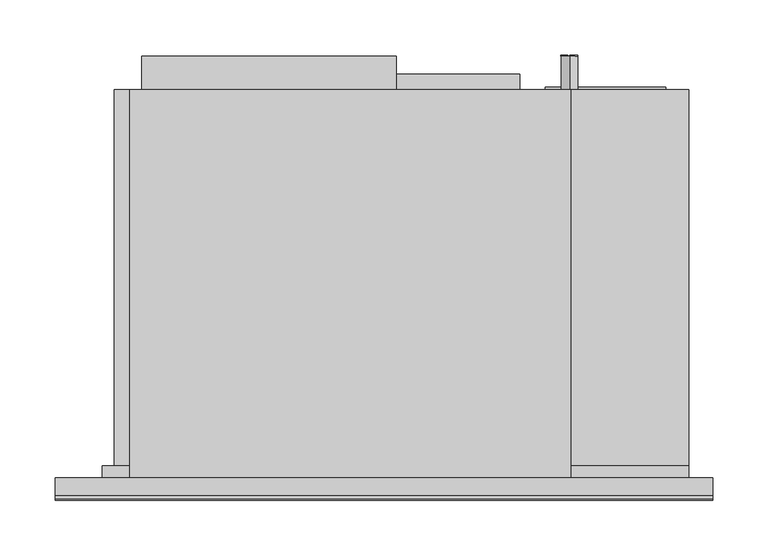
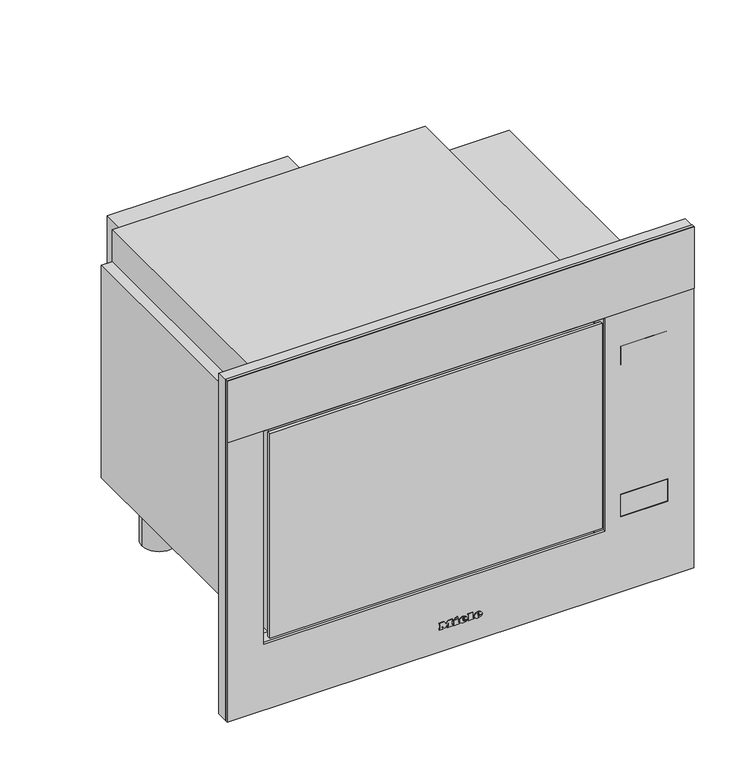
"""IFC4 building model written with IfcOpenShell, lengths in millimetres: proxy geometry, 11370020_AUS_M2240SC_EDST-CLST : 24224040_AUS_11370020_M2240SC_EDST-CLST."""

from ifc_helpers import new_model, si_unit, point, frame, frame_2d, origin, origin_with_axes, place, context, project, spatial, polyline, circle_curve, ellipse_curve, trimmed, segment, composite_curve, outline, extrude, faceted_brep, source, transform, mapped, element, save
from ifc_brep_helpers import plane_surface, cylinder_surface, revolved_surface, extruded_surface, advanced_brep


def specialty_equipment_020fe710(model_context):
    return source(origin(), model_context, "Body", "SolidModel", [
        advanced_brep(
        [(21.28, -20.0, 27.133), (21.28, -20.0, 28.042), (27.301, -20.0, 28.042), (16.825, -20.0, 28.042), (19.3, -20.0, 25.0), (27.148, -20.0, 27.133), (24.43, -20.0, 27.133), (22.288, -20.0, 26.125), (21.28, -20.0, 29.194), (21.28, -20.0, 30.175), (22.819, -20.0, 30.175), (22.819, -20.0, 29.194), (21.28, -19.0, 27.133), (22.288, -19.0, 26.125), (24.43, -19.0, 27.133), (27.148, -19.0, 27.133), (19.3, -19.0, 25.0), (16.825, -19.0, 28.042), (27.301, -19.0, 28.042), (21.28, -19.0, 28.042), (21.28, -19.0, 29.194), (22.819, -19.0, 29.194), (22.819, -19.0, 30.175), (21.28, -19.0, 30.175)],
        [
            (0, 1),
            (1, 2),
            (2, 3, ellipse_curve(frame((22.063, -20.0, 28.042), z_axis=(0.0, -1.0, 0.0), x_axis=(-1.0, 0.0, 0.0)), 5.238, 4.329)),
            (3, 4, circle_curve(frame((20.3080491, -20.0, 28.348), z_axis=(0.0, -1.0, 0.0), x_axis=(0.0, 0.0, -1.0)), 3.4964649)),
            (4, 5, circle_curve(frame((21.9581428, -20.0, 30.724), z_axis=(0.0, -1.0, 0.0), x_axis=(0.0, 0.0, -1.0)), 6.3110933)),
            (5, 6),
            (6, 7, circle_curve(frame((22.7279412, -20.0, 27.97), z_axis=(0.0, 1.0, 0.0), x_axis=(0.0, 0.0, -1.0)), 1.896727)),
            (7, 0, circle_curve(frame((22.288, -20.0, 27.133), z_axis=(0.0, 1.0, 0.0), x_axis=(0.0, 0.0, -1.0)), 1.008)),
            (8, 9),
            (9, 10, circle_curve(frame((22.0495, -20.0, 30.175), z_axis=(0.0, 1.0, 0.0), x_axis=(0.0, 0.0, -1.0)), 0.7695)),
            (10, 11),
            (11, 8),
            (12, 13, circle_curve(frame((22.288, -19.0, 27.133), z_axis=(0.0, -1.0, 0.0), x_axis=(0.0, 0.0, -1.0)), 1.008)),
            (13, 14, circle_curve(frame((22.7279412, -19.0, 27.97), z_axis=(0.0, -1.0, 0.0), x_axis=(0.0, 0.0, -1.0)), 1.896727)),
            (14, 15),
            (15, 16, circle_curve(frame((21.9581428, -19.0, 30.724), z_axis=(0.0, 1.0, 0.0), x_axis=(0.0, 0.0, -1.0)), 6.3110933)),
            (16, 17, circle_curve(frame((20.3080491, -19.0, 28.348), z_axis=(0.0, 1.0, 0.0), x_axis=(0.0, 0.0, -1.0)), 3.4964649)),
            (17, 18, ellipse_curve(frame((22.063, -19.0, 28.042), z_axis=(0.0, 1.0, 0.0), x_axis=(-1.0, 0.0, 0.0)), 5.238, 4.329)),
            (18, 19),
            (19, 12),
            (20, 21),
            (21, 22),
            (22, 23, circle_curve(frame((22.0495, -19.0, 30.175), z_axis=(0.0, -1.0, 0.0), x_axis=(0.0, 0.0, -1.0)), 0.7695)),
            (23, 20),
            (0, 12),
            (19, 1),
            (18, 2),
            (5, 15),
            (14, 6),
            (17, 3),
            (13, 7),
            (16, 4),
            (8, 20),
            (23, 9),
            (22, 10),
            (21, 11),
        ],
        [
            plane_surface(frame((21.28, -20.0, 28.042), z_axis=(0.0, -1.0, 0.0), x_axis=(0.0, 0.0, 1.0))),
            plane_surface(frame((21.28, -19.0, 28.042), z_axis=(0.0, 1.0, 0.0), x_axis=(0.0, 0.0, -1.0))),
            plane_surface(frame((21.28, -20.0, 27.133), z_axis=(1.0, 0.0, 0.0), x_axis=(0.0, 1.0, 0.0))),
            plane_surface(frame((21.28, -20.0, 28.042), z_axis=(0.0, 0.0, -1.0), x_axis=(0.0, 1.0, 0.0))),
            plane_surface(frame((27.148, -20.0, 27.133), z_axis=(0.0, 0.0, 1.0), x_axis=(0.0, 1.0, 0.0))),
            extruded_surface(trimmed(ellipse_curve(frame((22.063, -18.0, 28.042), z_axis=(0.0, -1.0, 0.0), x_axis=(-1.0, 0.0, 0.0)), 5.238, 4.329), [point((27.301, -18.0, 28.042))], [point((16.825, -18.0, 28.042))], True, "CARTESIAN"), (0.0, -1.0, 0.0), 1.0),
            revolved_surface(polyline([(22.7279412, -19.0, 26.073273), (22.7279412, -20.0, 26.073273)]), (22.7279412, -19.0, 27.97), (0.0, 1.0, 0.0)),
            revolved_surface(polyline([(22.288, -19.0, 26.125), (22.288, -20.0, 26.125)]), (22.288, -19.0, 27.133), (0.0, 1.0, 0.0)),
            cylinder_surface(frame((20.3080491, -19.0, 28.348), z_axis=(0.0, -1.0, 0.0), x_axis=(0.0, 0.0, -1.0)), 3.4964649),
            cylinder_surface(frame((21.9581428, -19.0, 30.724), z_axis=(0.0, -1.0, 0.0), x_axis=(0.0, 0.0, -1.0)), 6.3110933),
            plane_surface(frame((21.28, -20.0, 29.194), z_axis=(1.0, 0.0, 0.0), x_axis=(0.0, 1.0, 0.0))),
            revolved_surface(polyline([(22.0495, -19.0, 29.4055), (22.0495, -20.0, 29.4055)]), (22.0495, -19.0, 30.175), (0.0, 1.0, 0.0)),
            plane_surface(frame((22.819, -20.0, 30.175), z_axis=(-1.0, 0.0, 0.0), x_axis=(0.0, 1.0, 0.0))),
            plane_surface(frame((22.819, -20.0, 29.194), z_axis=(0.0, 0.0, 1.0), x_axis=(0.0, 1.0, 0.0))),
        ],
        [
            (0, [[1, 2, 3, 4, 5, 6, 7, 8], [9, 10, 11, 12]]),
            (1, [[13, 14, 15, 16, 17, 18, 19, 20], [21, 22, 23, 24]]),
            (2, [[-1, 25, -20, 26]]),
            (3, [[-2, -26, -19, 27]]),
            (4, [[-6, 28, -15, 29]]),
            (5, [[-3, -27, -18, 30]]),
            (6, [[-7, -29, -14, 31]]),
            (7, [[-8, -31, -13, -25]]),
            (8, [[-4, -30, -17, 32]]),
            (9, [[-5, -32, -16, -28]]),
            (10, [[-9, 33, -24, 34]]),
            (11, [[-10, -34, -23, 35]]),
            (12, [[-11, -35, -22, 36]]),
            (13, [[-12, -36, -21, -33]]),
        ],
    ),
        advanced_brep(
        [(2.497, -20.0, 27.133), (2.497, -20.0, 28.042), (8.518, -20.0, 28.042), (-1.958, -20.0, 28.042), (0.517, -20.0, 25.0), (8.365, -20.0, 27.133), (5.647, -20.0, 27.133), (3.505, -20.0, 26.125), (2.497, -20.0, 29.194), (2.497, -20.0, 30.175), (4.036, -20.0, 30.175), (4.036, -20.0, 29.194), (2.497, -19.0, 27.133), (3.505, -19.0, 26.125), (5.647, -19.0, 27.133), (8.365, -19.0, 27.133), (0.517, -19.0, 25.0), (-1.958, -19.0, 28.042), (8.518, -19.0, 28.042), (2.497, -19.0, 28.042), (2.497, -19.0, 29.194), (4.036, -19.0, 29.194), (4.036, -19.0, 30.175), (2.497, -19.0, 30.175)],
        [
            (0, 1),
            (1, 2),
            (2, 3, ellipse_curve(frame((3.28, -20.0, 28.042), z_axis=(0.0, -1.0, 0.0), x_axis=(-1.0, 0.0, 0.0)), 5.238, 4.329)),
            (3, 4, circle_curve(frame((1.5250491, -20.0, 28.348), z_axis=(0.0, -1.0, 0.0), x_axis=(0.0, 0.0, -1.0)), 3.4964649)),
            (4, 5, circle_curve(frame((3.1751428, -20.0, 30.724), z_axis=(0.0, -1.0, 0.0), x_axis=(0.0, 0.0, -1.0)), 6.3110933)),
            (5, 6),
            (6, 7, circle_curve(frame((3.9449412, -20.0, 27.97), z_axis=(0.0, 1.0, 0.0), x_axis=(0.0, 0.0, -1.0)), 1.896727)),
            (7, 0, circle_curve(frame((3.505, -20.0, 27.133), z_axis=(0.0, 1.0, 0.0), x_axis=(0.0, 0.0, -1.0)), 1.008)),
            (8, 9),
            (9, 10, circle_curve(frame((3.2665, -20.0, 30.175), z_axis=(0.0, 1.0, 0.0), x_axis=(0.0, 0.0, -1.0)), 0.7695)),
            (10, 11),
            (11, 8),
            (12, 13, circle_curve(frame((3.505, -19.0, 27.133), z_axis=(0.0, -1.0, 0.0), x_axis=(0.0, 0.0, -1.0)), 1.008)),
            (13, 14, circle_curve(frame((3.9449412, -19.0, 27.97), z_axis=(0.0, -1.0, 0.0), x_axis=(0.0, 0.0, -1.0)), 1.896727)),
            (14, 15),
            (15, 16, circle_curve(frame((3.1751428, -19.0, 30.724), z_axis=(0.0, 1.0, 0.0), x_axis=(0.0, 0.0, -1.0)), 6.3110933)),
            (16, 17, circle_curve(frame((1.5250491, -19.0, 28.348), z_axis=(0.0, 1.0, 0.0), x_axis=(0.0, 0.0, -1.0)), 3.4964649)),
            (17, 18, ellipse_curve(frame((3.28, -19.0, 28.042), z_axis=(0.0, 1.0, 0.0), x_axis=(-1.0, 0.0, 0.0)), 5.238, 4.329)),
            (18, 19),
            (19, 12),
            (20, 21),
            (21, 22),
            (22, 23, circle_curve(frame((3.2665, -19.0, 30.175), z_axis=(0.0, -1.0, 0.0), x_axis=(0.0, 0.0, -1.0)), 0.7695)),
            (23, 20),
            (0, 12),
            (19, 1),
            (18, 2),
            (5, 15),
            (14, 6),
            (17, 3),
            (13, 7),
            (16, 4),
            (8, 20),
            (23, 9),
            (22, 10),
            (21, 11),
        ],
        [
            plane_surface(frame((2.497, -20.0, 28.042), z_axis=(0.0, -1.0, 0.0), x_axis=(0.0, 0.0, 1.0))),
            plane_surface(frame((2.497, -19.0, 28.042), z_axis=(0.0, 1.0, 0.0), x_axis=(0.0, 0.0, -1.0))),
            plane_surface(frame((2.497, -20.0, 27.133), z_axis=(1.0, 0.0, 0.0), x_axis=(0.0, 1.0, 0.0))),
            plane_surface(frame((2.497, -20.0, 28.042), z_axis=(0.0, 0.0, -1.0), x_axis=(0.0, 1.0, 0.0))),
            plane_surface(frame((8.365, -20.0, 27.133), z_axis=(0.0, 0.0, 1.0), x_axis=(0.0, 1.0, 0.0))),
            extruded_surface(trimmed(ellipse_curve(frame((3.28, -18.0, 28.042), z_axis=(0.0, -1.0, 0.0), x_axis=(-1.0, 0.0, 0.0)), 5.238, 4.329), [point((8.518, -18.0, 28.042))], [point((-1.958, -18.0, 28.042))], True, "CARTESIAN"), (0.0, -1.0, 0.0), 1.0),
            revolved_surface(polyline([(3.9449412, -19.0, 26.073273), (3.9449412, -20.0, 26.073273)]), (3.9449412, -19.0, 27.97), (0.0, 1.0, 0.0)),
            revolved_surface(polyline([(3.505, -19.0, 26.125), (3.505, -20.0, 26.125)]), (3.505, -19.0, 27.133), (0.0, 1.0, 0.0)),
            cylinder_surface(frame((1.5250491, -19.0, 28.348), z_axis=(0.0, -1.0, 0.0), x_axis=(0.0, 0.0, -1.0)), 3.4964649),
            cylinder_surface(frame((3.1751428, -19.0, 30.724), z_axis=(0.0, -1.0, 0.0), x_axis=(0.0, 0.0, -1.0)), 6.3110933),
            plane_surface(frame((2.497, -20.0, 29.194), z_axis=(1.0, 0.0, 0.0), x_axis=(0.0, 1.0, 0.0))),
            revolved_surface(polyline([(3.2665, -19.0, 29.4055), (3.2665, -20.0, 29.4055)]), (3.2665, -19.0, 30.175), (0.0, 1.0, 0.0)),
            plane_surface(frame((4.036, -20.0, 30.175), z_axis=(-1.0, 0.0, 0.0), x_axis=(0.0, 1.0, 0.0))),
            plane_surface(frame((4.036, -20.0, 29.194), z_axis=(0.0, 0.0, 1.0), x_axis=(0.0, 1.0, 0.0))),
        ],
        [
            (0, [[1, 2, 3, 4, 5, 6, 7, 8], [9, 10, 11, 12]]),
            (1, [[13, 14, 15, 16, 17, 18, 19, 20], [21, 22, 23, 24]]),
            (2, [[-1, 25, -20, 26]]),
            (3, [[-2, -26, -19, 27]]),
            (4, [[-6, 28, -15, 29]]),
            (5, [[-3, -27, -18, 30]]),
            (6, [[-7, -29, -14, 31]]),
            (7, [[-8, -31, -13, -25]]),
            (8, [[-4, -30, -17, 32]]),
            (9, [[-5, -32, -16, -28]]),
            (10, [[-9, 33, -24, 34]]),
            (11, [[-10, -34, -23, 35]]),
            (12, [[-11, -35, -22, 36]]),
            (13, [[-12, -36, -21, -33]]),
        ],
    ),
        extrude(outline(polyline([(33.469, -7.34), (32.011, -6.656), (33.433, -3.605), (34.891, -4.28), (33.469, -7.34)])), frame((0.0, -20.0, 0.0), z_axis=(0.0, 1.0, 0.0), x_axis=(0.0, 0.0, 1.0)), (0.0, 0.0, 1.0), 1.0),
        extrude(outline(polyline([(31.813, -9.563), (30.202, -9.563), (30.202, -8.492), (26.512, -8.492), (26.512, -9.563), (25.0, -9.563), (25.0, -2.462), (26.512, -2.462), (26.512, -3.506), (31.813, -3.506), (31.813, -9.563)])), frame((0.0, -20.0, 0.0), z_axis=(0.0, 1.0, 0.0), x_axis=(0.0, 0.0, 1.0)), (0.0, 0.0, 1.0), 1.0),
        extrude(outline(polyline([(32.533, 9.022), (32.533, 10.102), (26.512, 10.102), (26.512, 9.022), (25.0, 9.022), (25.0, 16.321), (26.512, 16.321), (26.512, 15.214), (34.0, 15.214), (34.0, 9.022), (32.533, 9.022)])), frame((0.0, -20.0, 0.0), z_axis=(0.0, 1.0, 0.0), x_axis=(0.0, 0.0, 1.0)), (0.0, 0.0, 1.0), 1.0),
        extrude(outline(polyline([(32.533, -27.5), (32.533, -26.411), (26.512, -26.411), (26.512, -27.5), (25.0, -27.5), (25.0, -23.54), (26.512, -23.54), (26.512, -24.62), (30.3341247, -24.62), (25.0, -20.597), (30.4402223, -16.556), (26.512, -16.556), (26.512, -17.663), (25.0, -17.663), (25.0, -10.481), (26.512, -10.481), (26.512, -11.624), (32.533, -11.624), (32.533, -10.481), (34.0, -10.481), (34.0, -15.962), (30.625, -18.59), (34.0, -21.227), (34.0, -27.5), (32.533, -27.5)])), frame((0.0, -20.0, 0.0), z_axis=(0.0, 1.0, 0.0), x_axis=(0.0, 0.0, 1.0)), (0.0, 0.0, 1.0), 1.0),
        extrude(outline(polyline([(455.5, 297.5), (455.5, -297.5), (-5.0, -297.5), (-5.0, 297.5), (455.5, 297.5)]), holes=[polyline([(371.0, 184.0), (84.0, 184.0), (84.0, -251.0), (371.0, -251.0), (371.0, 184.0)]), polyline([(126.5, 264.0), (96.5, 264.0), (96.5, 204.0), (126.5, 204.0), (126.5, 264.0)])]), frame((0.0, -19.0, 0.0), z_axis=(0.0, 1.0, 0.0), x_axis=(0.0, 0.0, 1.0)), (0.0, 0.0, 1.0), 3.0),
        extrude(outline(polyline([(-297.5, -19.0), (297.5, -19.0), (297.5, -20.3), (-297.5, -20.3), (-297.5, -19.0)])), frame((0.0, 0.0, 372.5), z_axis=(0.0, 0.0, 1.0), x_axis=(1.0, 0.0, 0.0)), (0.0, 0.0, 1.0), 83.0),
        extrude(outline(polyline([(204.0, -18.8), (262.0, -18.8), (262.0, -19.1), (204.0, -19.1), (204.0, -18.8)])), frame((0.0, 0.0, 301.5), z_axis=(0.0, 0.0, 1.0), x_axis=(1.0, 0.0, 0.0)), (0.0, 0.0, 1.0), 25.0),
        extrude(outline(polyline([(204.5, -16.0), (263.5, -16.0), (263.5, -19.0), (204.5, -19.0), (204.5, -16.0)])), frame((0.0, 0.0, 97.0), z_axis=(0.0, 0.0, 1.0), x_axis=(1.0, 0.0, 0.0)), (0.0, 0.0, 1.0), 29.0),
        extrude(outline(polyline([(-244.0, -16.0), (180.0, -16.0), (180.0, -20.0), (-244.0, -20.0), (-244.0, -16.0)])), frame((0.0, 0.0, 90.0), z_axis=(0.0, 0.0, 1.0), x_axis=(1.0, 0.0, 0.0)), (0.0, 0.0, 1.0), 276.0),
        extrude(outline(polyline([(-243.0, 10.0), (180.0, 10.0), (180.0, -16.0), (-243.0, -16.0), (-243.0, 10.0)])), frame((0.0, 0.0, 95.0), z_axis=(0.0, 0.0, 1.0), x_axis=(1.0, 0.0, 0.0)), (0.0, 0.0, 1.0), 271.0),
        extrude(outline(polyline([(-219.0, 382.0), (11.0, 382.0), (11.0, 352.0), (-219.0, 352.0), (-219.0, 382.0)])), frame((0.0, 0.0, 336.0), z_axis=(0.0, 0.0, 1.0), x_axis=(1.0, 0.0, 0.0)), (0.0, 0.0, 1.0), 71.0),
        extrude(outline(polyline([(348.0536781, 168.1660444), (346.7952065, 168.1660444), (346.7952065, 174.1269959), (343.8028248, 174.1269959), (343.8028248, 168.4835385), (342.5487231, 168.4835385), (342.5487231, 174.1269959), (339.2630117, 174.1269959), (339.2630117, 168.0), (338.0, 168.0), (338.0, 175.3757838), (348.0536781, 175.3757838), (348.0536781, 168.1660444)])), frame((0.0, 382.0, 0.0), z_axis=(0.0, 1.0, 0.0), x_axis=(0.0, 0.0, 1.0)), (0.0, 0.0, 1.0), 1.0),
        extrude(outline(polyline([(348.0536781, 164.8530432), (339.2543004, 164.8530432), (339.2543004, 159.8378502), (338.0, 159.8378502), (338.0, 166.1246692), (348.0536781, 166.1246692), (348.0536781, 164.8530432)])), frame((0.0, 382.0, 0.0), z_axis=(0.0, 1.0, 0.0), x_axis=(0.0, 0.0, 1.0)), (0.0, 0.0, 1.0), 1.0),
        extrude(outline(composite_curve([segment(trimmed(circle_curve(frame_2d((343.0, 168.0)), 7.5), [point((335.5, 168.0))], [point((350.5, 168.0))], False, "CARTESIAN"), True, "CONTINUOUS"), segment(trimmed(circle_curve(frame_2d((343.0, 168.0)), 7.5), [point((350.5, 168.0))], [point((335.5, 168.0))], False, "CARTESIAN"), True, "CONTINUOUS")], self_intersect=False)), frame((0.0, 352.0, 0.0), z_axis=(0.0, 1.0, 0.0), x_axis=(0.0, 0.0, 1.0)), (0.0, 0.0, 1.0), 30.0),
        extrude(outline(composite_curve([segment(trimmed(circle_curve(frame_2d((-191.0, 61.0)), 22.0), [point((-169.0, 61.0))], [point((-213.0, 61.0))], False, "CARTESIAN"), True, "CONTINUOUS"), segment(trimmed(circle_curve(frame_2d((-191.0, 61.0)), 22.0), [point((-213.0, 61.0))], [point((-169.0, 61.0))], False, "CARTESIAN"), True, "CONTINUOUS")], self_intersect=False)), origin_with_axes(), (0.0, 0.0, 1.0), 81.0),
        extrude(outline(composite_curve([segment(trimmed(circle_curve(frame_2d((229.0, 61.0)), 22.0), [point((251.0, 61.0))], [point((207.0, 61.0))], False, "CARTESIAN"), True, "CONTINUOUS"), segment(trimmed(circle_curve(frame_2d((229.0, 61.0)), 22.0), [point((207.0, 61.0))], [point((251.0, 61.0))], False, "CARTESIAN"), True, "CONTINUOUS")], self_intersect=False)), origin_with_axes(), (0.0, 0.0, 1.0), 81.0),
        extrude(outline(composite_curve([segment(trimmed(circle_curve(frame_2d((229.0, 316.0)), 22.0), [point((251.0, 316.0))], [point((207.0, 316.0))], False, "CARTESIAN"), True, "CONTINUOUS"), segment(trimmed(circle_curve(frame_2d((229.0, 316.0)), 22.0), [point((207.0, 316.0))], [point((251.0, 316.0))], False, "CARTESIAN"), True, "CONTINUOUS")], self_intersect=False)), origin_with_axes(), (0.0, 0.0, 1.0), 81.0),
        extrude(outline(composite_curve([segment(trimmed(circle_curve(frame_2d((-191.0, 316.0)), 22.0), [point((-169.0, 316.0))], [point((-213.0, 316.0))], False, "CARTESIAN"), True, "CONTINUOUS"), segment(trimmed(circle_curve(frame_2d((-191.0, 316.0)), 22.0), [point((-213.0, 316.0))], [point((-169.0, 316.0))], False, "CARTESIAN"), True, "CONTINUOUS")], self_intersect=False)), origin_with_axes(), (0.0, 0.0, 1.0), 81.0),
        faceted_brep([(172.0, 10.0, 371.0), (-253.0, 10.0, 371.0), (-253.0, 10.0, 84.0), (172.0, 10.0, 84.0), (127.0, 10.0, 327.0), (127.0, 10.0, 121.0), (-209.0, 10.0, 121.0), (-209.0, 10.0, 327.0), (172.0, 0.0, 84.0), (172.0, 0.0, 371.0), (-253.0, 0.0, 84.0), (-253.0, 0.0, 371.0), (-255.0, 11.0, 81.0), (-255.0, 11.0, 372.0), (-230.0, 11.0, 372.0), (-230.0, 11.0, 367.0), (-244.0, 11.0, 367.0), (-244.0, 11.0, 81.0), (169.0, 11.0, 372.0), (276.0, 11.0, 372.0), (276.0, 11.0, 367.0), (169.0, 11.0, 367.0), (-255.0, 0.0, 372.0), (-255.0, 0.0, 81.0), (276.0, 0.0, 81.0), (276.0, 0.0, 372.0), (169.0, 0.0, 372.0), (169.0, 0.0, 410.0), (-230.0, 0.0, 410.0), (-230.0, 0.0, 372.0), (276.0, 352.0, 81.0), (276.0, 352.0, 367.0), (-244.0, 352.0, 81.0), (127.0, 350.0, 327.0), (-209.0, 350.0, 327.0), (-209.0, 350.0, 121.0), (127.0, 350.0, 121.0), (-244.0, 352.0, 367.0), (-230.0, 352.0, 367.0), (-230.0, 352.0, 410.0), (169.0, 352.0, 410.0), (169.0, 352.0, 367.0)], [[[0, 1, 2, 3], [4, 5, 6, 7]], [[0, 3, 8, 9]], [[3, 2, 10, 8]], [[2, 1, 11, 10]], [[1, 0, 9, 11]], [[12, 13, 14, 15, 16, 17]], [[18, 19, 20, 21]], [[22, 23, 24, 25, 26, 27, 28, 29], [9, 8, 10, 11]], [[25, 19, 18, 26]], [[13, 22, 29, 14]], [[19, 25, 24, 30, 31, 20]], [[23, 12, 17, 32, 30, 24]], [[13, 12, 23, 22]], [[33, 34, 35, 36]], [[33, 36, 5, 4]], [[36, 35, 6, 5]], [[35, 34, 7, 6]], [[34, 33, 4, 7]], [[30, 32, 37, 38, 39, 40, 41, 31]], [[37, 32, 17, 16]], [[38, 37, 16, 15]], [[39, 38, 15, 14, 29, 28]], [[28, 27, 40, 39]], [[41, 40, 27, 26, 18, 21]], [[31, 41, 21, 20]]]),
        extrude(outline(polyline([(146.0, 354.0), (255.0, 354.0), (255.0, 352.0), (146.0, 352.0), (146.0, 354.0)])), frame((0.0, 0.0, 152.1865515), z_axis=(0.0, 0.0, 1.0), x_axis=(1.0, 0.0, 0.0)), (0.0, 0.0, 1.0), 164.8134485),
        extrude(outline(polyline([(-205.0, 366.0), (123.0, 366.0), (123.0, 352.0), (-205.0, 352.0), (-205.0, 366.0)])), frame((0.0, 0.0, 124.0), z_axis=(0.0, 0.0, 1.0), x_axis=(1.0, 0.0, 0.0)), (0.0, 0.0, 1.0), 169.0),
        extrude(outline(polyline([(454.0, 297.5), (454.0, -297.5), (-5.0, -297.5), (-5.0, 297.5), (454.0, 297.5)]), holes=[polyline([(371.0, 172.0), (84.0, 172.0), (84.0, -253.0), (371.0, -253.0), (371.0, 172.0)])]), frame((0.0, -16.0, 0.0), z_axis=(0.0, 1.0, 0.0), x_axis=(0.0, 0.0, 1.0)), (0.0, 0.0, 1.0), 16.0),
    ])


if __name__ == "__main__":
    model = new_model("IFC4")
    model_context = context("Model", 3, world=origin())
    ifc_project = project(units=[si_unit("LENGTHUNIT", "METRE", prefix="MILLI")], contexts=[model_context])
    site = spatial("IfcSite", under=ifc_project)
    building = spatial("IfcBuilding", under=site)
    placement = place(None, origin())
    specialty_equipment_shape = specialty_equipment_020fe710(model_context)
    element("IfcBuildingElementProxy", 1, Name="11370020_AUS_M2240SC_EDST-CLST : 24224040_AUS_11370020_M2240SC_EDST-CLST", ObjectType="11370020_AUS_M2240SC_EDST-CLST : 24224040_AUS_11370020_M2240SC_EDST-CLST", at=placement, inside=building, context=model_context, shape_type="MappedRepresentation", body=[
        mapped(specialty_equipment_shape, transform((0.0, 0.0, 0.0), x_axis=(1.0, 0.0, 0.0), y_axis=(0.0, 1.0, 0.0), z_axis=(0.0, 0.0, 1.0))),
    ])
    save(model, "model.ifc")
